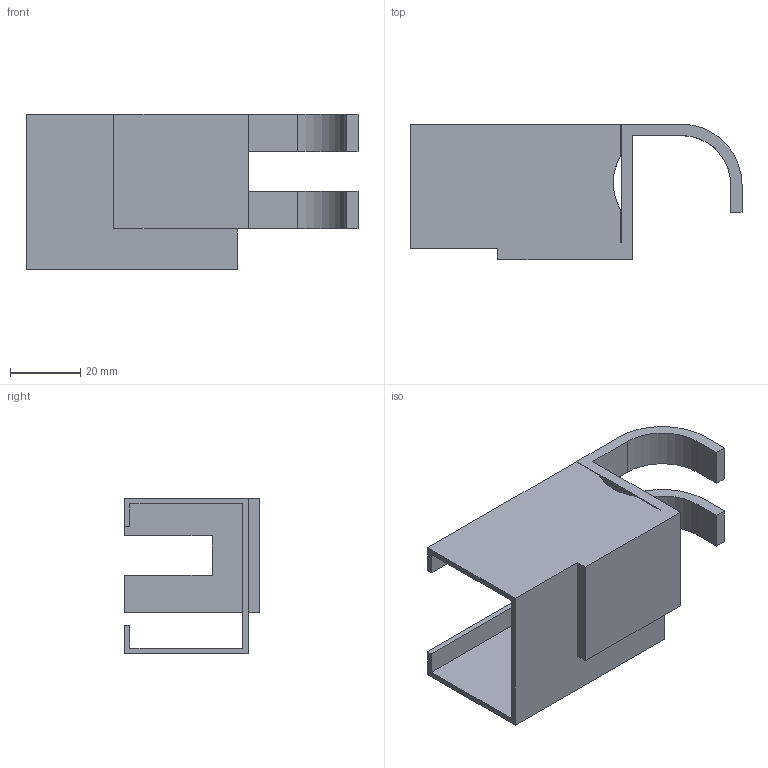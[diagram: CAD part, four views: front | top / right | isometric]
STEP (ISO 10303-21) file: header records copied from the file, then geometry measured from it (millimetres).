
FILE_DESCRIPTION (( 'STEP AP214' ), '1' );
FILE_NAME ('JB-508.step', '2023-12-26T01:20:38', ( 'catia' ), ( 'HP Inc.' ), 'SwSTEP 2.0', 'SolidWorks 2021', '' );
FILE_SCHEMA (( 'AUTOMOTIVE_DESIGN' ));
Length unit declared in the file: millimetre
Products named in the file (1): JB-508
Bounding box: 94.4 x 38.5 x 44.2 mm (x, y, z)
Volume: 21794 mm3; surface area: 20666.2 mm2
Topology: 1 solids, 1 shells, 42 faces, 119 edges, 79 vertices
Faces by surface type: plane 36, cylinder 6
Entity records: 1381 total; most frequent: CARTESIAN_POINT 241, ORIENTED_EDGE 238, DIRECTION 217, EDGE_CURVE 119, VECTOR 107, LINE 107, VERTEX_POINT 79, AXIS2_PLACEMENT_3D 55
